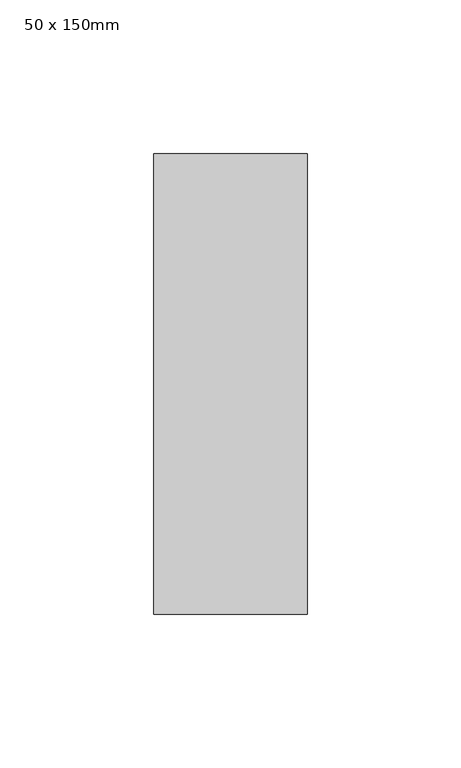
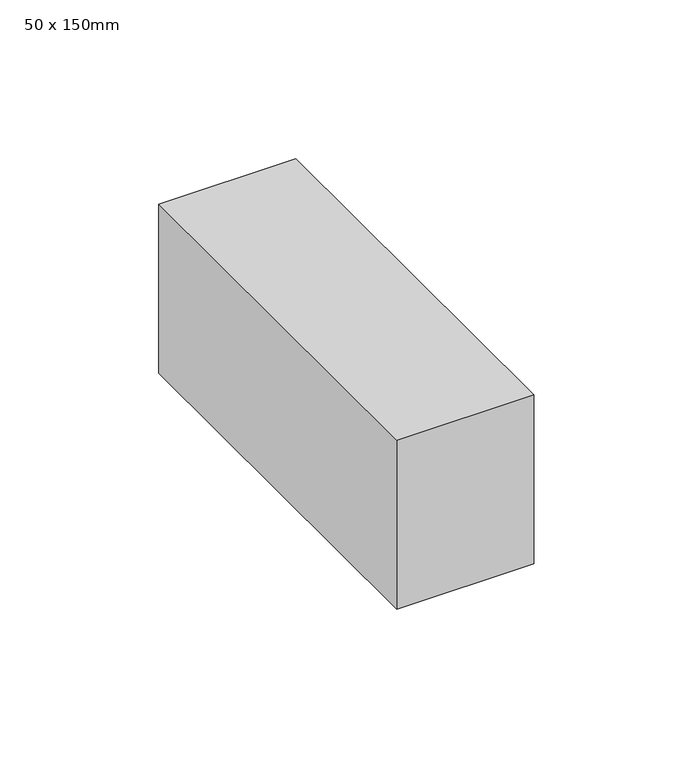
"""IFC4 building model written with IfcOpenShell, lengths in millimetres: member geometry, Прямоугольный импост : 50 x 150mm."""

from ifc_helpers import new_model, si_unit, frame, origin, place, context, project, spatial, polyline, outline, extrude, source, transform, mapped, element, save


def member_50_x_150mm_053647f4(model_context):
    return source(origin(), model_context, "Body", "SweptSolid", [
        extrude(outline(polyline([(0.0, 75.0), (0.0, -75.0), (-50.0, -75.0), (-50.0, 75.0), (0.0, 75.0)])), frame((0.0, 0.0, -65.0), z_axis=(0.0, 0.0, 1.0), x_axis=(1.0, 0.0, 0.0)), (0.0, 0.0, 1.0), 65.0),
    ])


if __name__ == "__main__":
    model = new_model("IFC4")
    model_context = context("Model", 3, world=origin())
    ifc_project = project(units=[si_unit("LENGTHUNIT", "METRE", prefix="MILLI")], contexts=[model_context])
    site = spatial("IfcSite", under=ifc_project)
    building = spatial("IfcBuilding", under=site)
    placement = place(None, origin())
    member_50_x_150mm_shape = member_50_x_150mm_053647f4(model_context)
    element("IfcMember", 1, ObjectType="Прямоугольный импост : 50 x 150mm", at=placement, inside=building, context=model_context, shape_type="MappedRepresentation", body=[
        mapped(member_50_x_150mm_shape, transform((0.0, 0.0, 0.0), x_axis=(1.0, 0.0, 0.0), y_axis=(0.0, 1.0, 0.0), z_axis=(0.0, 0.0, 1.0))),
    ])
    save(model, "model.ifc")
